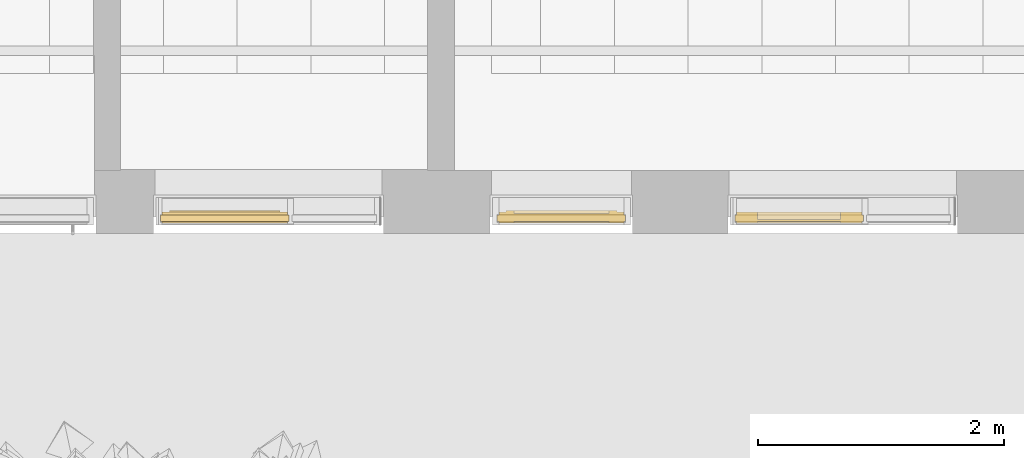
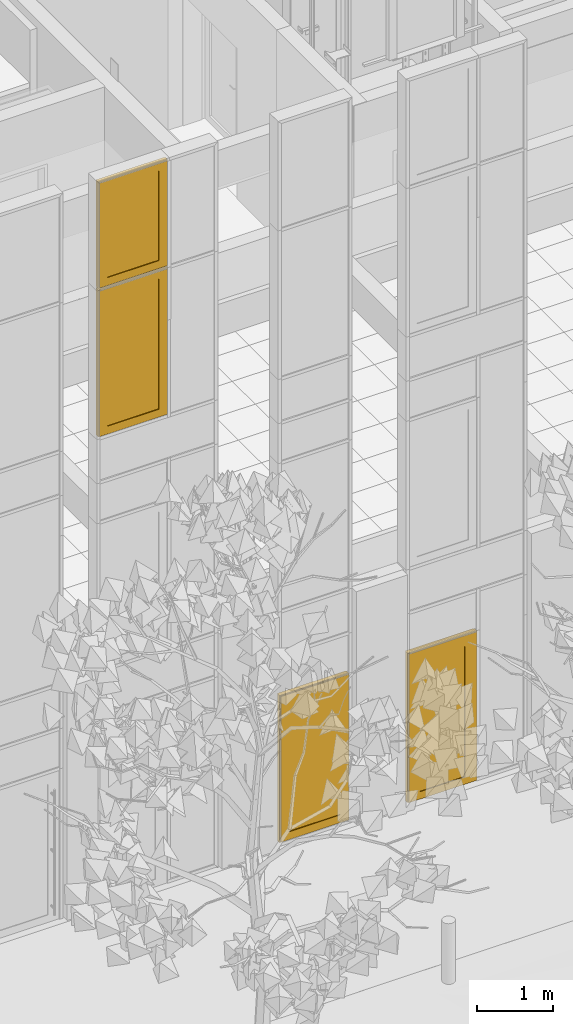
# One storey, part 144 of 246: 3 windows, 1 door, 3 elements without a shape of their own.
"""IFC2X3 building model written with IfcOpenShell, lengths in millimetres."""

from ifc_helpers import new_model, entity, si_unit, converted_unit, derived_unit, money_unit, direction, frame, origin_with_axes, place, context, subcontext, project, spatial, open_shell, faceted_brep, surface_model, source, transform, mapped, material, material_list, type_object, element, aggregate, save


model = new_model("IFC2X3")

# Units and contexts
model_context = context("Model", 3, precision=0.01, world=origin_with_axes(), true_north=direction((0.0, 1.0)))
body_context = subcontext(model_context, "Body", "Model", "MODEL_VIEW")
ifc_project = project(units=[si_unit("LENGTHUNIT", "METRE", prefix="MILLI"), si_unit("AREAUNIT", "SQUARE_METRE"), si_unit("VOLUMEUNIT", "CUBIC_METRE"), converted_unit("PLANEANGLEUNIT", "DEGREE", entity("IfcPlaneAngleMeasure", 0.0174532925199), si_unit("PLANEANGLEUNIT", "RADIAN"), dimensions=[0, 0, 0, 0, 0, 0, 0]), si_unit("SOLIDANGLEUNIT", "STERADIAN"), money_unit("EUR"), converted_unit("TIMEUNIT", "Year", entity("IfcTimeMeasure", 31556926.0), si_unit("TIMEUNIT", "SECOND"), dimensions=[0, 0, 1, 0, 0, 0, 0]), si_unit("MASSUNIT", "GRAM", prefix="KILO"), si_unit("THERMODYNAMICTEMPERATUREUNIT", "DEGREE_CELSIUS"), si_unit("LUMINOUSINTENSITYUNIT", "LUMEN"), si_unit("ENERGYUNIT", "JOULE", prefix="MEGA"), derived_unit("THERMALCONDUCTANCEUNIT", [(si_unit("POWERUNIT", "WATT"), 1), (si_unit("LENGTHUNIT", "METRE"), -1), (si_unit("THERMODYNAMICTEMPERATUREUNIT", "KELVIN"), -1)]), derived_unit("SPECIFICHEATCAPACITYUNIT", [(si_unit("ENERGYUNIT", "JOULE"), 1), (si_unit("MASSUNIT", "GRAM", prefix="KILO"), -1), (si_unit("THERMODYNAMICTEMPERATUREUNIT", "KELVIN"), -1)]), derived_unit("MASSDENSITYUNIT", [(si_unit("MASSUNIT", "GRAM", prefix="KILO"), 1), (si_unit("VOLUMEUNIT", "CUBIC_METRE"), -1)])], contexts=[model_context])

# Site, building, storey
site_placement = place(None, origin_with_axes())
site = spatial("IfcSite", under=ifc_project, at=site_placement, Name="L.Koidula tn 11b", CompositionType="ELEMENT")
building_placement = place(site_placement, origin_with_axes())
building = spatial("IfcBuilding", under=site, at=building_placement, Name="Rakvere Riigigümnaasium", CompositionType="ELEMENT")
storey_placement = place(building_placement, origin_with_axes())
storey = spatial("IfcBuildingStorey", under=building, at=storey_placement, Name="1.korrus 0,00", CompositionType="ELEMENT", Elevation=0.0)

# Curtain wall, door
curtain_wall_type = type_object("IfcCurtainWallType", Name="Curtain Wall Type", PredefinedType="NOTDEFINED")
curtain_wall_1_placement = place(storey_placement, frame((42948.5002114, 5111.45334637, -8.09717250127e-06), z_axis=(0.0, 0.0, 1.0), x_axis=(1.0, 0.0, 0.0)))
curtain_wall_1 = element("IfcCurtainWall", 1, at=curtain_wall_1_placement, inside=storey, type_object=curtain_wall_type, Name="KLF-05-2A")
ifc_material_1 = material(Name="Alumiiniumprofiil (RAL 7021)")
ifc_material_2 = material(Name="Klaaspakett 3x ribikardinatega")
ifc_material_list = material_list([ifc_material_1, ifc_material_2])
door_style = type_object("IfcDoorStyle", Name="1046 x 2388 x 54", ConstructionType="NOTDEFINED", OperationType="NOTDEFINED", ParameterTakesPrecedence=False, Sizeable=False)
shared_shape_1 = source(origin_with_axes(), body_context, "Body", "SurfaceModel", [
    surface_model("IfcShellBasedSurfaceModel", [(1070.0, 0.0, -53.0), (1017.0, 0.0, -53.0), (1017.0, 2322.0, -53.0), (1070.0, 2375.0, -53.0)], [open_shell([[[0, 1, 2, 3]]])]),
    surface_model("IfcShellBasedSurfaceModel", [(50.0, 2375.0, -53.0), (1070.0, 2375.0, -53.0), (1017.0, 2322.0, -53.0), (103.0, 2322.0, -53.0)], [open_shell([[[0, 1, 2, 3]]])]),
    surface_model("IfcShellBasedSurfaceModel", [(50.0, 0.0, -53.0), (50.0, 2375.0, -53.0), (103.0, 2322.0, -53.0), (103.0, 0.0, -53.0)], [open_shell([[[0, 1, 2, 3]]])]),
    faceted_brep([(1070.0, 0.0, -53.0), (1070.0, 2375.0, -53.0), (1070.0, 2375.0, 37.0), (1070.0, 0.0, 37.0), (1017.0, 0.0, -53.0), (1017.0, 2322.0, -53.0), (1017.0, 2322.0, 37.0), (1017.0, 0.0, 37.0)], [[[0, 1, 2, 3]], [[0, 4, 5, 1]], [[1, 5, 6, 2]], [[3, 2, 6, 7]], [[4, 0, 3, 7]], [[5, 4, 7, 6]]]),
    faceted_brep([(50.0, 2375.0, -53.0), (103.0, 2322.0, -53.0), (103.0, 2322.0, 37.0), (50.0, 2375.0, 37.0), (1070.0, 2375.0, -53.0), (1017.0, 2322.0, -53.0), (1017.0, 2322.0, 37.0), (1070.0, 2375.0, 37.0)], [[[0, 1, 2, 3]], [[0, 4, 5, 1]], [[1, 5, 6, 2]], [[3, 2, 6, 7]], [[4, 0, 3, 7]], [[5, 4, 7, 6]]]),
    faceted_brep([(50.0, 0.0, -53.0), (103.0, 0.0, -53.0), (103.0, 0.0, 37.0), (50.0, 0.0, 37.0), (50.0, 2375.0, -53.0), (103.0, 2322.0, -53.0), (103.0, 2322.0, 37.0), (50.0, 2375.0, 37.0)], [[[0, 1, 2, 3]], [[0, 4, 5, 1]], [[1, 5, 6, 2]], [[3, 2, 6, 7]], [[4, 0, 3, 7]], [[5, 4, 7, 6]]]),
    faceted_brep([(1083.0, 0.0, -27.0), (1083.0, 2388.0, -27.0), (1083.0, 2388.0, 27.0), (1083.0, 0.0, 27.0), (1070.0, 0.0, -27.0), (1070.0, 2375.0, -27.0), (1070.0, 2375.0, 27.0), (1070.0, 0.0, 27.0)], [[[0, 1, 2, 3]], [[0, 4, 5, 1]], [[1, 5, 6, 2]], [[3, 2, 6, 7]], [[4, 0, 3, 7]], [[5, 4, 7, 6]]]),
    faceted_brep([(1083.0, 2388.0, -27.0), (37.0, 2388.0, -27.0), (37.0, 2388.0, 27.0), (1083.0, 2388.0, 27.0), (1070.0, 2375.0, -27.0), (50.0, 2375.0, -27.0), (50.0, 2375.0, 27.0), (1070.0, 2375.0, 27.0)], [[[0, 1, 2, 3]], [[0, 4, 5, 1]], [[1, 5, 6, 2]], [[3, 2, 6, 7]], [[4, 0, 3, 7]], [[5, 4, 7, 6]]]),
    faceted_brep([(37.0, 2388.0, -27.0), (37.0, 0.0, -27.0), (37.0, 0.0, 27.0), (37.0, 2388.0, 27.0), (50.0, 2375.0, -27.0), (50.0, 0.0, -27.0), (50.0, 0.0, 27.0), (50.0, 2375.0, 27.0)], [[[0, 1, 2, 3]], [[0, 4, 5, 1]], [[1, 5, 6, 2]], [[3, 2, 6, 7]], [[4, 0, 3, 7]], [[5, 4, 7, 6]]]),
    faceted_brep([(222.0, 119.0, -53.0), (222.0, 2203.0, -53.0), (222.0, 2203.0, 37.0), (222.0, 119.0, 37.0), (103.0, 0.0, -53.0), (103.0, 2322.0, -53.0), (103.0, 2322.0, 37.0), (103.0, 0.0, 37.0)], [[[0, 1, 2, 3]], [[0, 4, 5, 1]], [[1, 5, 6, 2]], [[3, 2, 6, 7]], [[4, 0, 3, 7]], [[5, 4, 7, 6]]]),
    faceted_brep([(1017.0, 0.0, -53.0), (1017.0, 2322.0, -53.0), (1017.0, 2322.0, 37.0), (1017.0, 0.0, 37.0), (898.0, 119.0, -53.0), (898.0, 2203.0, -53.0), (898.0, 2203.0, 37.0), (898.0, 119.0, 37.0)], [[[0, 1, 2, 3]], [[0, 4, 5, 1]], [[1, 5, 6, 2]], [[3, 2, 6, 7]], [[4, 0, 3, 7]], [[5, 4, 7, 6]]]),
    faceted_brep([(1017.0, 0.0, -53.0), (898.0, 119.0, -53.0), (898.0, 119.0, 37.0), (1017.0, 0.0, 37.0), (103.0, 0.0, -53.0), (222.0, 119.0, -53.0), (222.0, 119.0, 37.0), (103.0, 0.0, 37.0)], [[[0, 1, 2, 3]], [[0, 4, 5, 1]], [[1, 5, 6, 2]], [[3, 2, 6, 7]], [[4, 0, 3, 7]], [[5, 4, 7, 6]]]),
    faceted_brep([(103.0, 2322.0, -53.0), (222.0, 2203.0, -53.0), (222.0, 2203.0, 37.0), (103.0, 2322.0, 37.0), (1017.0, 2322.0, -53.0), (898.0, 2203.0, -53.0), (898.0, 2203.0, 37.0), (1017.0, 2322.0, 37.0)], [[[0, 1, 2, 3]], [[0, 4, 5, 1]], [[1, 5, 6, 2]], [[3, 2, 6, 7]], [[4, 0, 3, 7]], [[5, 4, 7, 6]]]),
    faceted_brep([(222.0, 119.0, 11.0), (898.0, 119.0, 11.0), (898.0, 119.0, 27.0), (222.0, 119.0, 27.0), (222.0, 2203.0, 11.0), (898.0, 2203.0, 11.0), (898.0, 2203.0, 27.0), (222.0, 2203.0, 27.0)], [[[0, 1, 2, 3]], [[0, 4, 5, 1]], [[1, 5, 6, 2]], [[3, 2, 6, 7]], [[4, 0, 3, 7]], [[5, 4, 7, 6]]]),
])
door_placement = place(curtain_wall_1_placement, frame((-582.333458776, 0.0, 1200.0), z_axis=(0.0, 0.0, 1.0), x_axis=(-1.0, 0.0, 0.0)))
door = element("IfcDoor", 2, at=door_placement, type_object=door_style, material=ifc_material_list, Name="KLF-05-VU-2", ObjectType="DOOR", context=body_context, shape_type="MappedRepresentation", body=[
    mapped(shared_shape_1, transform((371.666628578, 0.0, -1200.0), x_axis=(-1.0, 0.0, 0.0), y_axis=(0.0, 0.0, 1.0), z_axis=(0.0, 1.0, 0.0))),
])
aggregate(curtain_wall_1, [door])

# Curtain wall, windows
curtain_wall_2_placement = place(storey_placement, frame((38273.9956035, 5111.45334637, -8.09717250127e-06), z_axis=(0.0, 0.0, 1.0), x_axis=(1.0, 0.0, 0.0)))
curtain_wall_2 = element("IfcCurtainWall", 3, at=curtain_wall_2_placement, inside=storey, type_object=curtain_wall_type, Name="KLF-05-2A")
window_style_1 = type_object("IfcWindowStyle", Name="1046 x 2351 x 54", ConstructionType="NOTDEFINED", OperationType="NOTDEFINED", ParameterTakesPrecedence=False, Sizeable=False)
shared_shape_2 = source(origin_with_axes(), body_context, "Body", "SurfaceModel", [
    surface_model("IfcShellBasedSurfaceModel", [(50.0000055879, 24.9999850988, 38.0), (109.000005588, 83.9999850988, 38.0), (1010.9999851, 83.9999850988, 38.0), (1069.9999851, 24.9999850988, 38.0)], [open_shell([[[0, 1, 2, 3]]])]),
    surface_model("IfcShellBasedSurfaceModel", [(1069.9999851, 24.9999850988, 38.0), (1010.9999851, 83.9999850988, 38.0), (1010.9999851, 2291.0000149, 38.0), (1069.9999851, 2350.0000149, 38.0)], [open_shell([[[0, 1, 2, 3]]])]),
    surface_model("IfcShellBasedSurfaceModel", [(50.0000055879, 2350.0000149, 38.0), (1069.9999851, 2350.0000149, 38.0), (1010.9999851, 2291.0000149, 38.0), (109.000005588, 2291.0000149, 38.0)], [open_shell([[[0, 1, 2, 3]]])]),
    surface_model("IfcShellBasedSurfaceModel", [(50.0000055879, 24.9999850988, 38.0), (50.0000055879, 2350.0000149, 38.0), (109.000005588, 2291.0000149, 38.0), (109.000005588, 83.9999850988, 38.0)], [open_shell([[[0, 1, 2, 3]]])]),
    faceted_brep([(50.0000055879, 24.9999850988, -51.0), (1069.9999851, 24.9999850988, -51.0), (1069.9999851, 24.9999850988, 38.0), (50.0000055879, 24.9999850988, 38.0), (109.000005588, 83.9999850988, -51.0), (1010.9999851, 83.9999850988, -51.0), (1010.9999851, 83.9999850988, 38.0), (109.000005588, 83.9999850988, 38.0)], [[[0, 1, 2, 3]], [[0, 4, 5, 1]], [[1, 5, 6, 2]], [[3, 2, 6, 7]], [[4, 0, 3, 7]], [[5, 4, 7, 6]]]),
    faceted_brep([(1069.9999851, 24.9999850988, -51.0), (1069.9999851, 2350.0000149, -51.0), (1069.9999851, 2350.0000149, 38.0), (1069.9999851, 24.9999850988, 38.0), (1010.9999851, 83.9999850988, -51.0), (1010.9999851, 2291.0000149, -51.0), (1010.9999851, 2291.0000149, 38.0), (1010.9999851, 83.9999850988, 38.0)], [[[0, 1, 2, 3]], [[0, 4, 5, 1]], [[1, 5, 6, 2]], [[3, 2, 6, 7]], [[4, 0, 3, 7]], [[5, 4, 7, 6]]]),
    faceted_brep([(50.0000055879, 2350.0000149, -51.0), (109.000005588, 2291.0000149, -51.0), (109.000005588, 2291.0000149, 38.0), (50.0000055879, 2350.0000149, 38.0), (1069.9999851, 2350.0000149, -51.0), (1010.9999851, 2291.0000149, -51.0), (1010.9999851, 2291.0000149, 38.0), (1069.9999851, 2350.0000149, 38.0)], [[[0, 1, 2, 3]], [[0, 4, 5, 1]], [[1, 5, 6, 2]], [[3, 2, 6, 7]], [[4, 0, 3, 7]], [[5, 4, 7, 6]]]),
    faceted_brep([(50.0000055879, 24.9999850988, -51.0), (109.000005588, 83.9999850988, -51.0), (109.000005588, 83.9999850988, 38.0), (50.0000055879, 24.9999850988, 38.0), (50.0000055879, 2350.0000149, -51.0), (109.000005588, 2291.0000149, -51.0), (109.000005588, 2291.0000149, 38.0), (50.0000055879, 2350.0000149, 38.0)], [[[0, 1, 2, 3]], [[0, 4, 5, 1]], [[1, 5, 6, 2]], [[3, 2, 6, 7]], [[4, 0, 3, 7]], [[5, 4, 7, 6]]]),
    faceted_brep([(36.9999836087, 11.9999985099, -27.0), (1083.00000708, 11.9999985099, -27.0), (1083.00000708, 11.9999985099, 27.0), (36.9999836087, 11.9999985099, 27.0), (50.0000055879, 24.9999850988, -27.0), (1069.9999851, 24.9999850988, -27.0), (1069.9999851, 24.9999850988, 27.0), (50.0000055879, 24.9999850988, 27.0)], [[[0, 1, 2, 3]], [[0, 4, 5, 1]], [[1, 5, 6, 2]], [[3, 2, 6, 7]], [[4, 0, 3, 7]], [[5, 4, 7, 6]]]),
    faceted_brep([(1083.00000708, 11.9999985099, -27.0), (1083.00000708, 2363.00000149, -27.0), (1083.00000708, 2363.00000149, 27.0), (1083.00000708, 11.9999985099, 27.0), (1069.9999851, 24.9999850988, -27.0), (1069.9999851, 2350.0000149, -27.0), (1069.9999851, 2350.0000149, 27.0), (1069.9999851, 24.9999850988, 27.0)], [[[0, 1, 2, 3]], [[0, 4, 5, 1]], [[1, 5, 6, 2]], [[3, 2, 6, 7]], [[4, 0, 3, 7]], [[5, 4, 7, 6]]]),
    faceted_brep([(1083.00000708, 2363.00000149, -27.0), (36.9999836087, 2363.00000149, -27.0), (36.9999836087, 2363.00000149, 27.0), (1083.00000708, 2363.00000149, 27.0), (1069.9999851, 2350.0000149, -27.0), (50.0000055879, 2350.0000149, -27.0), (50.0000055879, 2350.0000149, 27.0), (1069.9999851, 2350.0000149, 27.0)], [[[0, 1, 2, 3]], [[0, 4, 5, 1]], [[1, 5, 6, 2]], [[3, 2, 6, 7]], [[4, 0, 3, 7]], [[5, 4, 7, 6]]]),
    faceted_brep([(36.9999836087, 2363.00000149, -27.0), (36.9999836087, 11.9999985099, -27.0), (36.9999836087, 11.9999985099, 27.0), (36.9999836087, 2363.00000149, 27.0), (50.0000055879, 2350.0000149, -27.0), (50.0000055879, 24.9999850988, -27.0), (50.0000055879, 24.9999850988, 27.0), (50.0000055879, 2350.0000149, 27.0)], [[[0, 1, 2, 3]], [[0, 4, 5, 1]], [[1, 5, 6, 2]], [[3, 2, 6, 7]], [[4, 0, 3, 7]], [[5, 4, 7, 6]]]),
    faceted_brep([(172.000005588, 146.999985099, 38.0), (172.000005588, 146.999985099, -62.0), (172.000005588, 2228.0000149, -62.0), (172.000005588, 2228.0000149, 38.0), (109.000005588, 83.9999850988, 38.0), (109.000005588, 83.9999850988, -62.0), (109.000005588, 2291.0000149, -62.0), (109.000005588, 2291.0000149, 38.0)], [[[0, 1, 2, 3]], [[4, 5, 1, 0]], [[1, 5, 6, 2]], [[3, 2, 6, 7]], [[0, 3, 7, 4]], [[7, 6, 5, 4]]]),
    faceted_brep([(1010.9999851, 83.9999850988, 38.0), (1010.9999851, 83.9999850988, -62.0), (1010.9999851, 2291.0000149, -62.0), (1010.9999851, 2291.0000149, 38.0), (947.999985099, 146.999985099, 38.0), (947.999985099, 146.999985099, -62.0), (947.999985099, 2228.0000149, -62.0), (947.999985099, 2228.0000149, 38.0)], [[[0, 1, 2, 3]], [[4, 5, 1, 0]], [[1, 5, 6, 2]], [[3, 2, 6, 7]], [[0, 3, 7, 4]], [[7, 6, 5, 4]]]),
    faceted_brep([(1010.9999851, 83.9999850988, 38.0), (1010.9999851, 83.9999850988, -62.0), (947.999985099, 146.999985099, -62.0), (947.999985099, 146.999985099, 38.0), (109.000005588, 83.9999850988, 38.0), (109.000005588, 83.9999850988, -62.0), (172.000005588, 146.999985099, -62.0), (172.000005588, 146.999985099, 38.0)], [[[0, 1, 2, 3]], [[4, 5, 1, 0]], [[1, 5, 6, 2]], [[3, 2, 6, 7]], [[0, 3, 7, 4]], [[7, 6, 5, 4]]]),
    faceted_brep([(109.000005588, 2291.0000149, 38.0), (109.000005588, 2291.0000149, -62.0), (172.000005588, 2228.0000149, -62.0), (172.000005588, 2228.0000149, 38.0), (1010.9999851, 2291.0000149, 38.0), (1010.9999851, 2291.0000149, -62.0), (947.999985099, 2228.0000149, -62.0), (947.999985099, 2228.0000149, 38.0)], [[[0, 1, 2, 3]], [[4, 5, 1, 0]], [[1, 5, 6, 2]], [[3, 2, 6, 7]], [[0, 3, 7, 4]], [[7, 6, 5, 4]]]),
    faceted_brep([(172.000005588, 146.999985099, 27.0), (172.000005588, 146.999985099, 11.0), (947.999985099, 146.999985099, 11.0), (947.999985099, 146.999985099, 27.0), (172.000005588, 2228.0000149, 27.0), (172.000005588, 2228.0000149, 11.0), (947.999985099, 2228.0000149, 11.0), (947.999985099, 2228.0000149, 27.0)], [[[0, 1, 2, 3]], [[4, 5, 1, 0]], [[1, 5, 6, 2]], [[3, 2, 6, 7]], [[0, 3, 7, 4]], [[7, 6, 5, 4]]]),
])
window_1_placement = place(curtain_wall_2_placement, frame((-403.166773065, 0.0, 8512.5), z_axis=(0.0, 0.0, 1.0), x_axis=(-1.0, 0.0, 0.0)))
window_1 = element("IfcWindow", 4, at=window_1_placement, type_object=window_style_1, material=ifc_material_list, Name="KLF-05-A-1", ObjectType="WINDOW", context=body_context, shape_type="MappedRepresentation", body=[
    mapped(shared_shape_2, transform((550.833314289, 0.0, -1047.5), x_axis=(-1.0, 0.0, 0.0), y_axis=(0.0, 0.0, 1.0), z_axis=(0.0, 1.0, 0.0))),
])
window_style_2 = type_object("IfcWindowStyle", Name="1046 x 1701 x 54", ConstructionType="NOTDEFINED", OperationType="NOTDEFINED", ParameterTakesPrecedence=False, Sizeable=False)
shared_shape_3 = source(origin_with_axes(), body_context, "Body", "SurfaceModel", [
    surface_model("IfcShellBasedSurfaceModel", [(49.9999937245, 24.9999968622, 38.0), (108.999993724, 83.9999968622, 38.0), (1011.00000652, 83.9999968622, 38.0), (1070.00000652, 24.9999968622, 38.0)], [open_shell([[[0, 1, 2, 3]]])]),
    surface_model("IfcShellBasedSurfaceModel", [(1070.00000652, 24.9999968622, 38.0), (1011.00000652, 83.9999968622, 38.0), (1011.00000652, 1641.0000474, 38.0), (1070.00000652, 1700.0000474, 38.0)], [open_shell([[[0, 1, 2, 3]]])]),
    surface_model("IfcShellBasedSurfaceModel", [(49.9999937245, 1700.0000474, 38.0), (1070.00000652, 1700.0000474, 38.0), (1011.00000652, 1641.0000474, 38.0), (108.999993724, 1641.0000474, 38.0)], [open_shell([[[0, 1, 2, 3]]])]),
    surface_model("IfcShellBasedSurfaceModel", [(49.9999937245, 24.9999968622, 38.0), (49.9999937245, 1700.0000474, 38.0), (108.999993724, 1641.0000474, 38.0), (108.999993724, 83.9999968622, 38.0)], [open_shell([[[0, 1, 2, 3]]])]),
    faceted_brep([(49.9999937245, 24.9999968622, -51.0), (1070.00000652, 24.9999968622, -51.0), (1070.00000652, 24.9999968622, 38.0), (49.9999937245, 24.9999968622, 38.0), (108.999993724, 83.9999968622, -51.0), (1011.00000652, 83.9999968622, -51.0), (1011.00000652, 83.9999968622, 38.0), (108.999993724, 83.9999968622, 38.0)], [[[0, 1, 2, 3]], [[0, 4, 5, 1]], [[1, 5, 6, 2]], [[3, 2, 6, 7]], [[4, 0, 3, 7]], [[5, 4, 7, 6]]]),
    faceted_brep([(1070.00000652, 24.9999968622, -51.0), (1070.00000652, 1700.0000474, -51.0), (1070.00000652, 1700.0000474, 38.0), (1070.00000652, 24.9999968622, 38.0), (1011.00000652, 83.9999968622, -51.0), (1011.00000652, 1641.0000474, -51.0), (1011.00000652, 1641.0000474, 38.0), (1011.00000652, 83.9999968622, 38.0)], [[[0, 1, 2, 3]], [[0, 4, 5, 1]], [[1, 5, 6, 2]], [[3, 2, 6, 7]], [[4, 0, 3, 7]], [[5, 4, 7, 6]]]),
    faceted_brep([(49.9999937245, 1700.0000474, -51.0), (108.999993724, 1641.0000474, -51.0), (108.999993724, 1641.0000474, 38.0), (49.9999937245, 1700.0000474, 38.0), (1070.00000652, 1700.0000474, -51.0), (1011.00000652, 1641.0000474, -51.0), (1011.00000652, 1641.0000474, 38.0), (1070.00000652, 1700.0000474, 38.0)], [[[0, 1, 2, 3]], [[0, 4, 5, 1]], [[1, 5, 6, 2]], [[3, 2, 6, 7]], [[4, 0, 3, 7]], [[5, 4, 7, 6]]]),
    faceted_brep([(49.9999937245, 24.9999968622, -51.0), (108.999993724, 83.9999968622, -51.0), (108.999993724, 83.9999968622, 38.0), (49.9999937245, 24.9999968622, 38.0), (49.9999937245, 1700.0000474, -51.0), (108.999993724, 1641.0000474, -51.0), (108.999993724, 1641.0000474, 38.0), (49.9999937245, 1700.0000474, 38.0)], [[[0, 1, 2, 3]], [[0, 4, 5, 1]], [[1, 5, 6, 2]], [[3, 2, 6, 7]], [[4, 0, 3, 7]], [[5, 4, 7, 6]]]),
    faceted_brep([(37.00000683, 12.0000099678, -27.0), (1082.99999341, 12.0000099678, -27.0), (1082.99999341, 12.0000099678, 27.0), (37.00000683, 12.0000099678, 27.0), (49.9999937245, 24.9999968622, -27.0), (1070.00000652, 24.9999968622, -27.0), (1070.00000652, 24.9999968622, 27.0), (49.9999937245, 24.9999968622, 27.0)], [[[0, 1, 2, 3]], [[0, 4, 5, 1]], [[1, 5, 6, 2]], [[3, 2, 6, 7]], [[4, 0, 3, 7]], [[5, 4, 7, 6]]]),
    faceted_brep([(1082.99999341, 12.0000099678, -27.0), (1082.99999341, 1713.0000343, -27.0), (1082.99999341, 1713.0000343, 27.0), (1082.99999341, 12.0000099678, 27.0), (1070.00000652, 24.9999968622, -27.0), (1070.00000652, 1700.0000474, -27.0), (1070.00000652, 1700.0000474, 27.0), (1070.00000652, 24.9999968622, 27.0)], [[[0, 1, 2, 3]], [[0, 4, 5, 1]], [[1, 5, 6, 2]], [[3, 2, 6, 7]], [[4, 0, 3, 7]], [[5, 4, 7, 6]]]),
    faceted_brep([(1082.99999341, 1713.0000343, -27.0), (37.00000683, 1713.0000343, -27.0), (37.00000683, 1713.0000343, 27.0), (1082.99999341, 1713.0000343, 27.0), (1070.00000652, 1700.0000474, -27.0), (49.9999937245, 1700.0000474, -27.0), (49.9999937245, 1700.0000474, 27.0), (1070.00000652, 1700.0000474, 27.0)], [[[0, 1, 2, 3]], [[0, 4, 5, 1]], [[1, 5, 6, 2]], [[3, 2, 6, 7]], [[4, 0, 3, 7]], [[5, 4, 7, 6]]]),
    faceted_brep([(37.00000683, 1713.0000343, -27.0), (37.00000683, 12.0000099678, -27.0), (37.00000683, 12.0000099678, 27.0), (37.00000683, 1713.0000343, 27.0), (49.9999937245, 1700.0000474, -27.0), (49.9999937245, 24.9999968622, -27.0), (49.9999937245, 24.9999968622, 27.0), (49.9999937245, 1700.0000474, 27.0)], [[[0, 1, 2, 3]], [[0, 4, 5, 1]], [[1, 5, 6, 2]], [[3, 2, 6, 7]], [[4, 0, 3, 7]], [[5, 4, 7, 6]]]),
    faceted_brep([(171.999993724, 146.999996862, 38.0), (171.999993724, 146.999996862, -62.0), (171.999993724, 1578.0000474, -62.0), (171.999993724, 1578.0000474, 38.0), (108.999993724, 83.9999968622, 38.0), (108.999993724, 83.9999968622, -62.0), (108.999993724, 1641.0000474, -62.0), (108.999993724, 1641.0000474, 38.0)], [[[0, 1, 2, 3]], [[4, 5, 1, 0]], [[1, 5, 6, 2]], [[3, 2, 6, 7]], [[0, 3, 7, 4]], [[7, 6, 5, 4]]]),
    faceted_brep([(1011.00000652, 83.9999968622, 38.0), (1011.00000652, 83.9999968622, -62.0), (1011.00000652, 1641.0000474, -62.0), (1011.00000652, 1641.0000474, 38.0), (948.00000652, 146.999996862, 38.0), (948.00000652, 146.999996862, -62.0), (948.00000652, 1578.0000474, -62.0), (948.00000652, 1578.0000474, 38.0)], [[[0, 1, 2, 3]], [[4, 5, 1, 0]], [[1, 5, 6, 2]], [[3, 2, 6, 7]], [[0, 3, 7, 4]], [[7, 6, 5, 4]]]),
    faceted_brep([(1011.00000652, 83.9999968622, 38.0), (1011.00000652, 83.9999968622, -62.0), (948.00000652, 146.999996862, -62.0), (948.00000652, 146.999996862, 38.0), (108.999993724, 83.9999968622, 38.0), (108.999993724, 83.9999968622, -62.0), (171.999993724, 146.999996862, -62.0), (171.999993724, 146.999996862, 38.0)], [[[0, 1, 2, 3]], [[4, 5, 1, 0]], [[1, 5, 6, 2]], [[3, 2, 6, 7]], [[0, 3, 7, 4]], [[7, 6, 5, 4]]]),
    faceted_brep([(108.999993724, 1641.0000474, 38.0), (108.999993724, 1641.0000474, -62.0), (171.999993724, 1578.0000474, -62.0), (171.999993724, 1578.0000474, 38.0), (1011.00000652, 1641.0000474, 38.0), (1011.00000652, 1641.0000474, -62.0), (948.00000652, 1578.0000474, -62.0), (948.00000652, 1578.0000474, 38.0)], [[[0, 1, 2, 3]], [[4, 5, 1, 0]], [[1, 5, 6, 2]], [[3, 2, 6, 7]], [[0, 3, 7, 4]], [[7, 6, 5, 4]]]),
    faceted_brep([(171.999993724, 146.999996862, 27.0), (171.999993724, 146.999996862, 11.0), (948.00000652, 146.999996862, 11.0), (948.00000652, 146.999996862, 27.0), (171.999993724, 1578.0000474, 27.0), (171.999993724, 1578.0000474, 11.0), (948.00000652, 1578.0000474, 11.0), (948.00000652, 1578.0000474, 27.0)], [[[0, 1, 2, 3]], [[4, 5, 1, 0]], [[1, 5, 6, 2]], [[3, 2, 6, 7]], [[0, 3, 7, 4]], [[7, 6, 5, 4]]]),
])
window_2_placement = place(curtain_wall_2_placement, frame((-406.500087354, 0.0, 10715.0000206), z_axis=(0.0, 0.0, 1.0), x_axis=(-1.0, 0.0, 0.0)))
window_2 = element("IfcWindow", 5, at=window_2_placement, type_object=window_style_2, material=ifc_material_list, Name="KLF-05-A-3", ObjectType="WINDOW", context=body_context, shape_type="MappedRepresentation", body=[
    mapped(shared_shape_3, transform((547.5, 0.0, -875.000020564), x_axis=(-1.0, 0.0, 0.0), y_axis=(0.0, 0.0, 1.0), z_axis=(0.0, 1.0, 0.0))),
])
aggregate(curtain_wall_2, [window_1, window_2])

# Curtain wall, window
curtain_wall_3_placement = place(storey_placement, frame((40619.71659, 5111.45334637, -1.61944636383e-05), z_axis=(0.0, 0.0, 1.0), x_axis=(1.0, 0.0, 0.0)))
curtain_wall_3 = element("IfcCurtainWall", 6, at=curtain_wall_3_placement, inside=storey, type_object=curtain_wall_type, Name="KLF-05-1D")
shared_shape_4 = source(origin_with_axes(), body_context, "Body", "SurfaceModel", [
    surface_model("IfcShellBasedSurfaceModel", [(50.4998936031, 50.0, 38.0), (109.499893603, 109.0, 38.0), (1011.50021547, 109.0, 38.0), (1070.50021547, 50.0, 38.0)], [open_shell([[[0, 1, 2, 3]]])]),
    surface_model("IfcShellBasedSurfaceModel", [(1070.50021547, 50.0, 38.0), (1011.50021547, 109.0, 38.0), (1011.50021547, 2316.0, 38.0), (1070.50021547, 2375.0, 38.0)], [open_shell([[[0, 1, 2, 3]]])]),
    surface_model("IfcShellBasedSurfaceModel", [(50.4998936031, 2375.0, 38.0), (1070.50021547, 2375.0, 38.0), (1011.50021547, 2316.0, 38.0), (109.499893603, 2316.0, 38.0)], [open_shell([[[0, 1, 2, 3]]])]),
    surface_model("IfcShellBasedSurfaceModel", [(50.4998936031, 50.0, 38.0), (50.4998936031, 2375.0, 38.0), (109.499893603, 2316.0, 38.0), (109.499893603, 109.0, 38.0)], [open_shell([[[0, 1, 2, 3]]])]),
    faceted_brep([(50.4998936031, 50.0, -51.0), (1070.50021547, 50.0, -51.0), (1070.50021547, 50.0, 38.0), (50.4998936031, 50.0, 38.0), (109.499893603, 109.0, -51.0), (1011.50021547, 109.0, -51.0), (1011.50021547, 109.0, 38.0), (109.499893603, 109.0, 38.0)], [[[0, 1, 2, 3]], [[0, 4, 5, 1]], [[1, 5, 6, 2]], [[3, 2, 6, 7]], [[4, 0, 3, 7]], [[5, 4, 7, 6]]]),
    faceted_brep([(1070.50021547, 50.0, -51.0), (1070.50021547, 2375.0, -51.0), (1070.50021547, 2375.0, 38.0), (1070.50021547, 50.0, 38.0), (1011.50021547, 109.0, -51.0), (1011.50021547, 2316.0, -51.0), (1011.50021547, 2316.0, 38.0), (1011.50021547, 109.0, 38.0)], [[[0, 1, 2, 3]], [[0, 4, 5, 1]], [[1, 5, 6, 2]], [[3, 2, 6, 7]], [[4, 0, 3, 7]], [[5, 4, 7, 6]]]),
    faceted_brep([(50.4998936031, 2375.0, -51.0), (109.499893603, 2316.0, -51.0), (109.499893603, 2316.0, 38.0), (50.4998936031, 2375.0, 38.0), (1070.50021547, 2375.0, -51.0), (1011.50021547, 2316.0, -51.0), (1011.50021547, 2316.0, 38.0), (1070.50021547, 2375.0, 38.0)], [[[0, 1, 2, 3]], [[0, 4, 5, 1]], [[1, 5, 6, 2]], [[3, 2, 6, 7]], [[4, 0, 3, 7]], [[5, 4, 7, 6]]]),
    faceted_brep([(50.4998936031, 50.0, -51.0), (109.499893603, 109.0, -51.0), (109.499893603, 109.0, 38.0), (50.4998936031, 50.0, 38.0), (50.4998936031, 2375.0, -51.0), (109.499893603, 2316.0, -51.0), (109.499893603, 2316.0, 38.0), (50.4998936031, 2375.0, 38.0)], [[[0, 1, 2, 3]], [[0, 4, 5, 1]], [[1, 5, 6, 2]], [[3, 2, 6, 7]], [[4, 0, 3, 7]], [[5, 4, 7, 6]]]),
    faceted_brep([(37.4998936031, 37.0, -27.0), (1083.50021547, 37.0, -27.0), (1083.50021547, 37.0, 27.0), (37.4998936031, 37.0, 27.0), (50.4998936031, 50.0, -27.0), (1070.50021547, 50.0, -27.0), (1070.50021547, 50.0, 27.0), (50.4998936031, 50.0, 27.0)], [[[0, 1, 2, 3]], [[0, 4, 5, 1]], [[1, 5, 6, 2]], [[3, 2, 6, 7]], [[4, 0, 3, 7]], [[5, 4, 7, 6]]]),
    faceted_brep([(1083.50021547, 37.0, -27.0), (1083.50021547, 2388.0, -27.0), (1083.50021547, 2388.0, 27.0), (1083.50021547, 37.0, 27.0), (1070.50021547, 50.0, -27.0), (1070.50021547, 2375.0, -27.0), (1070.50021547, 2375.0, 27.0), (1070.50021547, 50.0, 27.0)], [[[0, 1, 2, 3]], [[0, 4, 5, 1]], [[1, 5, 6, 2]], [[3, 2, 6, 7]], [[4, 0, 3, 7]], [[5, 4, 7, 6]]]),
    faceted_brep([(1083.50021547, 2388.0, -27.0), (37.4998936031, 2388.0, -27.0), (37.4998936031, 2388.0, 27.0), (1083.50021547, 2388.0, 27.0), (1070.50021547, 2375.0, -27.0), (50.4998936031, 2375.0, -27.0), (50.4998936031, 2375.0, 27.0), (1070.50021547, 2375.0, 27.0)], [[[0, 1, 2, 3]], [[0, 4, 5, 1]], [[1, 5, 6, 2]], [[3, 2, 6, 7]], [[4, 0, 3, 7]], [[5, 4, 7, 6]]]),
    faceted_brep([(37.4998936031, 2388.0, -27.0), (37.4998936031, 37.0, -27.0), (37.4998936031, 37.0, 27.0), (37.4998936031, 2388.0, 27.0), (50.4998936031, 2375.0, -27.0), (50.4998936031, 50.0, -27.0), (50.4998936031, 50.0, 27.0), (50.4998936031, 2375.0, 27.0)], [[[0, 1, 2, 3]], [[0, 4, 5, 1]], [[1, 5, 6, 2]], [[3, 2, 6, 7]], [[4, 0, 3, 7]], [[5, 4, 7, 6]]]),
    faceted_brep([(172.499893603, 172.0, 38.0), (172.499893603, 172.0, -62.0), (172.499893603, 2253.0, -62.0), (172.499893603, 2253.0, 38.0), (109.499893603, 109.0, 38.0), (109.499893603, 109.0, -62.0), (109.499893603, 2316.0, -62.0), (109.499893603, 2316.0, 38.0)], [[[0, 1, 2, 3]], [[4, 5, 1, 0]], [[1, 5, 6, 2]], [[3, 2, 6, 7]], [[0, 3, 7, 4]], [[7, 6, 5, 4]]]),
    faceted_brep([(1011.50021547, 109.0, 38.0), (1011.50021547, 109.0, -62.0), (1011.50021547, 2316.0, -62.0), (1011.50021547, 2316.0, 38.0), (948.500215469, 172.0, 38.0), (948.500215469, 172.0, -62.0), (948.500215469, 2253.0, -62.0), (948.500215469, 2253.0, 38.0)], [[[0, 1, 2, 3]], [[4, 5, 1, 0]], [[1, 5, 6, 2]], [[3, 2, 6, 7]], [[0, 3, 7, 4]], [[7, 6, 5, 4]]]),
    faceted_brep([(1011.50021547, 109.0, 38.0), (1011.50021547, 109.0, -62.0), (948.500215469, 172.0, -62.0), (948.500215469, 172.0, 38.0), (109.499893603, 109.0, 38.0), (109.499893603, 109.0, -62.0), (172.499893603, 172.0, -62.0), (172.499893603, 172.0, 38.0)], [[[0, 1, 2, 3]], [[4, 5, 1, 0]], [[1, 5, 6, 2]], [[3, 2, 6, 7]], [[0, 3, 7, 4]], [[7, 6, 5, 4]]]),
    faceted_brep([(109.499893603, 2316.0, 38.0), (109.499893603, 2316.0, -62.0), (172.499893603, 2253.0, -62.0), (172.499893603, 2253.0, 38.0), (1011.50021547, 2316.0, 38.0), (1011.50021547, 2316.0, -62.0), (948.500215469, 2253.0, -62.0), (948.500215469, 2253.0, 38.0)], [[[0, 1, 2, 3]], [[4, 5, 1, 0]], [[1, 5, 6, 2]], [[3, 2, 6, 7]], [[0, 3, 7, 4]], [[7, 6, 5, 4]]]),
    faceted_brep([(172.499893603, 172.0, 27.0), (172.499893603, 172.0, -38.0), (948.500215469, 172.0, -38.0), (948.500215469, 172.0, 27.0), (172.499893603, 2253.0, 27.0), (172.499893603, 2253.0, -38.0), (948.500215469, 2253.0, -38.0), (948.500215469, 2253.0, 27.0)], [[[0, 1, 2, 3]], [[4, 5, 1, 0]], [[1, 5, 6, 2]], [[3, 2, 6, 7]], [[0, 3, 7, 4]], [[7, 6, 5, 4]]]),
])
window_3_placement = place(curtain_wall_3_placement, frame((0.0, 0.0, 1200.0), z_axis=(0.0, 0.0, 1.0), x_axis=(-1.0, 0.0, 0.0)))
window_3 = element("IfcWindow", 7, at=window_3_placement, type_object=window_style_1, material=ifc_material_list, Name="KLF-05-A-1", ObjectType="WINDOW", context=body_context, shape_type="MappedRepresentation", body=[
    mapped(shared_shape_4, transform((560.500051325, 0.0, -1200.0), x_axis=(-1.0, 0.0, 0.0), y_axis=(0.0, 0.0, 1.0), z_axis=(0.0, 1.0, 0.0))),
])
aggregate(curtain_wall_3, [window_3])

save(model, "model.ifc")
